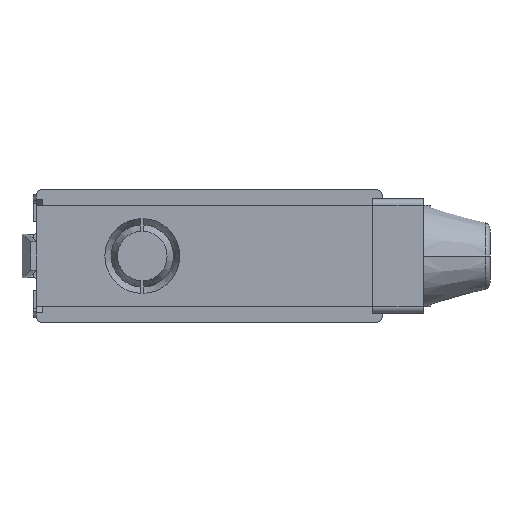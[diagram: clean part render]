
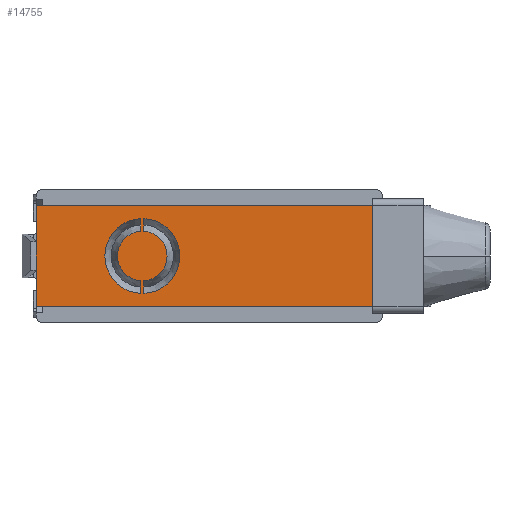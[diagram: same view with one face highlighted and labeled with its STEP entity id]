
A CAD part, front view. The second image highlights one B-rep face of the part: STEP entity #14755.
In plain terms, the highlighted planar face has unit normal (0, -1, 0).
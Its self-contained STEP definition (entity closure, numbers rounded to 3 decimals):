
#1211 = CARTESIAN_POINT ( 'NONE',  ( -10.55, -19.6, 0. ) ) ;
#1212 = DIRECTION ( 'NONE',  ( 0., -1., 0. ) ) ;
#1213 = DIRECTION ( 'NONE',  ( 0., 0., -1. ) ) ;
#5040 = PLANE ( 'NONE',  #12251 ) ;
#5041 = CARTESIAN_POINT ( 'NONE',  ( 27.25, -19.6, 7.95 ) ) ;
#5042 = DIRECTION ( 'NONE',  ( 0., 1., 0. ) ) ;
#5043 = DIRECTION ( 'NONE',  ( 0., 0., 1. ) ) ;
#11341 = CARTESIAN_POINT ( 'NONE',  ( -10.3, -19.6, -5.895 ) ) ;
#11343 = CARTESIAN_POINT ( 'NONE',  ( -10.3, -19.6, 5.895 ) ) ;
#11345 = CARTESIAN_POINT ( 'NONE',  ( -10.3, -19.6, -3.892 ) ) ;
#11346 = CARTESIAN_POINT ( 'NONE',  ( -10.3, -19.6, 3.892 ) ) ;
#11353 = CARTESIAN_POINT ( 'NONE',  ( 27.25, -19.6, -7.95 ) ) ;
#11358 = CARTESIAN_POINT ( 'NONE',  ( 27.25, -19.6, 7.95 ) ) ;
#11398 = CARTESIAN_POINT ( 'NONE',  ( -27.25, -19.6, 7.95 ) ) ;
#11401 = CARTESIAN_POINT ( 'NONE',  ( -27.25, -19.6, -7.95 ) ) ;
#11450 = CARTESIAN_POINT ( 'NONE',  ( -10.8, -19.6, -5.895 ) ) ;
#11452 = CARTESIAN_POINT ( 'NONE',  ( -10.8, -19.6, 5.895 ) ) ;
#11453 = CARTESIAN_POINT ( 'NONE',  ( -10.8, -19.6, -3.892 ) ) ;
#11454 = CARTESIAN_POINT ( 'NONE',  ( -10.8, -19.6, 3.892 ) ) ;
#11847 = VECTOR ( 'NONE', #11954, 1000. ) ;
#11952 = LINE ( 'NONE', #11953, #11847 ) ;
#11953 = CARTESIAN_POINT ( 'NONE',  ( -27.25, -19.6, 7.95 ) ) ;
#11954 = DIRECTION ( 'NONE',  ( 0., 0., -1. ) ) ;
#12149 = VECTOR ( 'NONE', #19011, 1000. ) ;
#12159 = VECTOR ( 'NONE', #19014, 1000. ) ;
#12160 = VECTOR ( 'NONE', #19017, 1000. ) ;
#12166 = AXIS2_PLACEMENT_3D ( 'NONE', #19049, #19053, #19054 ) ;
#12239 = FACE_BOUND ( 'NONE', #13620, .T. ) ;
#12251 = AXIS2_PLACEMENT_3D ( 'NONE', #5041, #5042, #5043 ) ;
#12254 = FACE_OUTER_BOUND ( 'NONE', #13638, .T. ) ;
#12255 = FACE_BOUND ( 'NONE', #13639, .T. ) ;
#12534 = VECTOR ( 'NONE', #18878, 1000. ) ;
#12543 = VECTOR ( 'NONE', #18850, 1000. ) ;
#12577 = AXIS2_PLACEMENT_3D ( 'NONE', #18992, #18994, #18995 ) ;
#12578 = AXIS2_PLACEMENT_3D ( 'NONE', #18988, #18989, #18991 ) ;
#12582 = VECTOR ( 'NONE', #18977, 1000. ) ;
#12603 = VECTOR ( 'NONE', #18651, 1000. ) ;
#12680 = EDGE_CURVE ( 'NONE', #16150, #16145, #18649, .T. ) ;
#12990 = AXIS2_PLACEMENT_3D ( 'NONE', #1211, #1212, #1213 ) ;
#13523 = ORIENTED_EDGE ( 'NONE', *, *, #14245, .T. ) ;
#13524 = ORIENTED_EDGE ( 'NONE', *, *, #14254, .T. ) ;
#13535 = ORIENTED_EDGE ( 'NONE', *, *, #12680, .F. ) ;
#13536 = ORIENTED_EDGE ( 'NONE', *, *, #14213, .F. ) ;
#13537 = ORIENTED_EDGE ( 'NONE', *, *, #19077, .T. ) ;
#13538 = ORIENTED_EDGE ( 'NONE', *, *, #14248, .T. ) ;
#13539 = ORIENTED_EDGE ( 'NONE', *, *, #14122, .T. ) ;
#13540 = ORIENTED_EDGE ( 'NONE', *, *, #14249, .F. ) ;
#13541 = ORIENTED_EDGE ( 'NONE', *, *, #14253, .T. ) ;
#13542 = ORIENTED_EDGE ( 'NONE', *, *, #14265, .T. ) ;
#13543 = ORIENTED_EDGE ( 'NONE', *, *, #14252, .T. ) ;
#13544 = ORIENTED_EDGE ( 'NONE', *, *, #14397, .F. ) ;
#13620 = EDGE_LOOP ( 'NONE', ( #13523, #13544, #13524, #13542 ) ) ;
#13638 = EDGE_LOOP ( 'NONE', ( #13537, #13536, #13535, #13539 ) ) ;
#13639 = EDGE_LOOP ( 'NONE', ( #13541, #13540, #13543, #13538 ) ) ;
#14122 = EDGE_CURVE ( 'NONE', #16150, #16190, #18848, .T. ) ;
#14213 = EDGE_CURVE ( 'NONE', #16145, #16193, #18876, .T. ) ;
#14245 = EDGE_CURVE ( 'NONE', #16138, #16135, #18975, .T. ) ;
#14248 = EDGE_CURVE ( 'NONE', #16246, #16245, #15507, .T. ) ;
#14249 = EDGE_CURVE ( 'NONE', #16244, #16242, #15508, .T. ) ;
#14252 = EDGE_CURVE ( 'NONE', #16244, #16246, #19009, .T. ) ;
#14253 = EDGE_CURVE ( 'NONE', #16245, #16242, #19012, .T. ) ;
#14254 = EDGE_CURVE ( 'NONE', #16133, #16137, #19015, .T. ) ;
#14265 = EDGE_CURVE ( 'NONE', #16137, #16138, #15515, .T. ) ;
#14397 = EDGE_CURVE ( 'NONE', #16133, #16135, #15574, .T. ) ;
#14755 = ADVANCED_FACE ( 'NONE', ( #12239, #12255, #12254 ), #5040, .F. ) ;
#15507 = CIRCLE ( 'NONE', #12578, 3.9 ) ;
#15508 = CIRCLE ( 'NONE', #12577, 5.9 ) ;
#15515 = CIRCLE ( 'NONE', #12166, 3.9 ) ;
#15574 = CIRCLE ( 'NONE', #12990, 5.9 ) ;
#16133 = VERTEX_POINT ( 'NONE', #11341 ) ;
#16135 = VERTEX_POINT ( 'NONE', #11343 ) ;
#16137 = VERTEX_POINT ( 'NONE', #11345 ) ;
#16138 = VERTEX_POINT ( 'NONE', #11346 ) ;
#16145 = VERTEX_POINT ( 'NONE', #11353 ) ;
#16150 = VERTEX_POINT ( 'NONE', #11358 ) ;
#16190 = VERTEX_POINT ( 'NONE', #11398 ) ;
#16193 = VERTEX_POINT ( 'NONE', #11401 ) ;
#16242 = VERTEX_POINT ( 'NONE', #11450 ) ;
#16244 = VERTEX_POINT ( 'NONE', #11452 ) ;
#16245 = VERTEX_POINT ( 'NONE', #11453 ) ;
#16246 = VERTEX_POINT ( 'NONE', #11454 ) ;
#18649 = LINE ( 'NONE', #18650, #12603 ) ;
#18650 = CARTESIAN_POINT ( 'NONE',  ( 27.25, -19.6, 7.95 ) ) ;
#18651 = DIRECTION ( 'NONE',  ( 0., 0., -1. ) ) ;
#18848 = LINE ( 'NONE', #18849, #12543 ) ;
#18849 = CARTESIAN_POINT ( 'NONE',  ( 27.25, -19.6, 7.95 ) ) ;
#18850 = DIRECTION ( 'NONE',  ( -1., 0., 0. ) ) ;
#18876 = LINE ( 'NONE', #18877, #12534 ) ;
#18877 = CARTESIAN_POINT ( 'NONE',  ( 27.25, -19.6, -7.95 ) ) ;
#18878 = DIRECTION ( 'NONE',  ( -1., 0., 0. ) ) ;
#18975 = LINE ( 'NONE', #18976, #12582 ) ;
#18976 = CARTESIAN_POINT ( 'NONE',  ( -10.3, -19.6, -5.9 ) ) ;
#18977 = DIRECTION ( 'NONE',  ( 0., 0., 1. ) ) ;
#18988 = CARTESIAN_POINT ( 'NONE',  ( -10.55, -19.6, 0. ) ) ;
#18989 = DIRECTION ( 'NONE',  ( 0., -1., 0. ) ) ;
#18991 = DIRECTION ( 'NONE',  ( 0., 0., -1. ) ) ;
#18992 = CARTESIAN_POINT ( 'NONE',  ( -10.55, -19.6, 0. ) ) ;
#18994 = DIRECTION ( 'NONE',  ( 0., -1., 0. ) ) ;
#18995 = DIRECTION ( 'NONE',  ( 0., 0., -1. ) ) ;
#19009 = LINE ( 'NONE', #19010, #12149 ) ;
#19010 = CARTESIAN_POINT ( 'NONE',  ( -10.8, -19.6, -5.9 ) ) ;
#19011 = DIRECTION ( 'NONE',  ( 0., 0., -1. ) ) ;
#19012 = LINE ( 'NONE', #19013, #12159 ) ;
#19013 = CARTESIAN_POINT ( 'NONE',  ( -10.8, -19.6, -5.9 ) ) ;
#19014 = DIRECTION ( 'NONE',  ( 0., 0., -1. ) ) ;
#19015 = LINE ( 'NONE', #19016, #12160 ) ;
#19016 = CARTESIAN_POINT ( 'NONE',  ( -10.3, -19.6, -5.9 ) ) ;
#19017 = DIRECTION ( 'NONE',  ( 0., 0., 1. ) ) ;
#19049 = CARTESIAN_POINT ( 'NONE',  ( -10.55, -19.6, 0. ) ) ;
#19053 = DIRECTION ( 'NONE',  ( 0., -1., 0. ) ) ;
#19054 = DIRECTION ( 'NONE',  ( 0., 0., -1. ) ) ;
#19077 = EDGE_CURVE ( 'NONE', #16190, #16193, #11952, .T. ) ;
